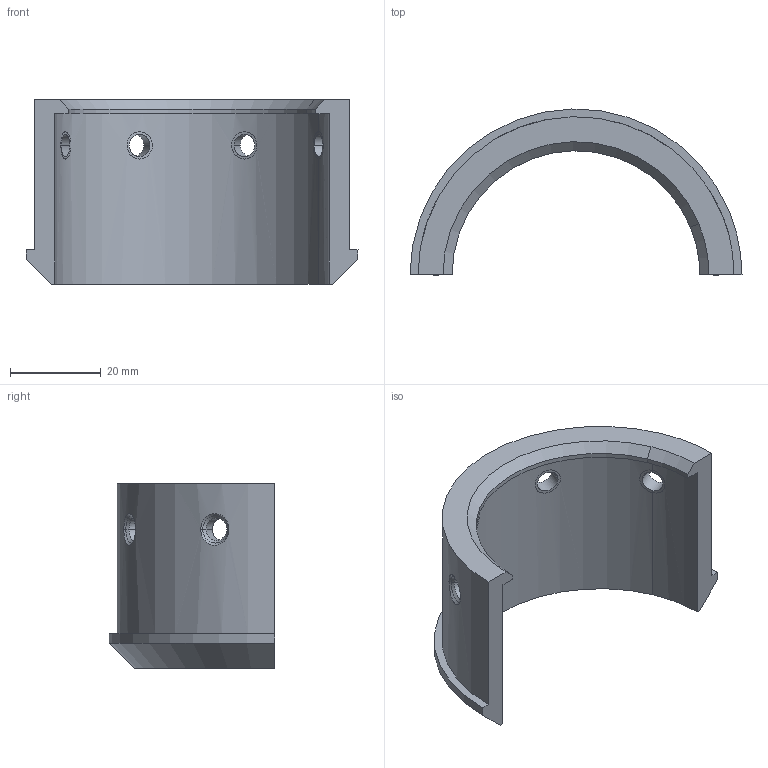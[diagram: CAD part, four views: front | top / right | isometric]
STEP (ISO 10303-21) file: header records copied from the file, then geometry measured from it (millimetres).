
FILE_DESCRIPTION(/* description */ ('VariCAD 2010-3.03 AP-214'),/* implementation_level */ '2;1');
FILE_NAME(/* name */ '0353-19-88',/* time_stamp */ '2011-03-02T15:28:56-07:00',/* author */ (''),/* organization */ (''),/* preprocessor_version */ 'ST-DEVELOPER v12',/* originating_system */ 'VariCAD 2010-3.03; kernel version (20100102)',/* authorisation */ '');
FILE_SCHEMA (('AUTOMOTIVE_DESIGN'));
Length unit declared in the file: millimetre
Products named in the file (1): Part
Bounding box: 73.03 x 36.5 x 40.5 mm (x, y, z)
Volume: 18875.7 mm3; surface area: 10743.5 mm2
Topology: 5 solids, 5 shells, 63 faces, 154 edges, 94 vertices
Faces by surface type: cylinder 37, cone 20, plane 6
Entity records: 2735 total; most frequent: CARTESIAN_POINT 763, ORIENTED_EDGE 308, DIRECTION 296, EDGE_CURVE 154, AXIS2_PLACEMENT_3D 113, VERTEX_POINT 94, EDGE_LOOP 72, LINE 70
